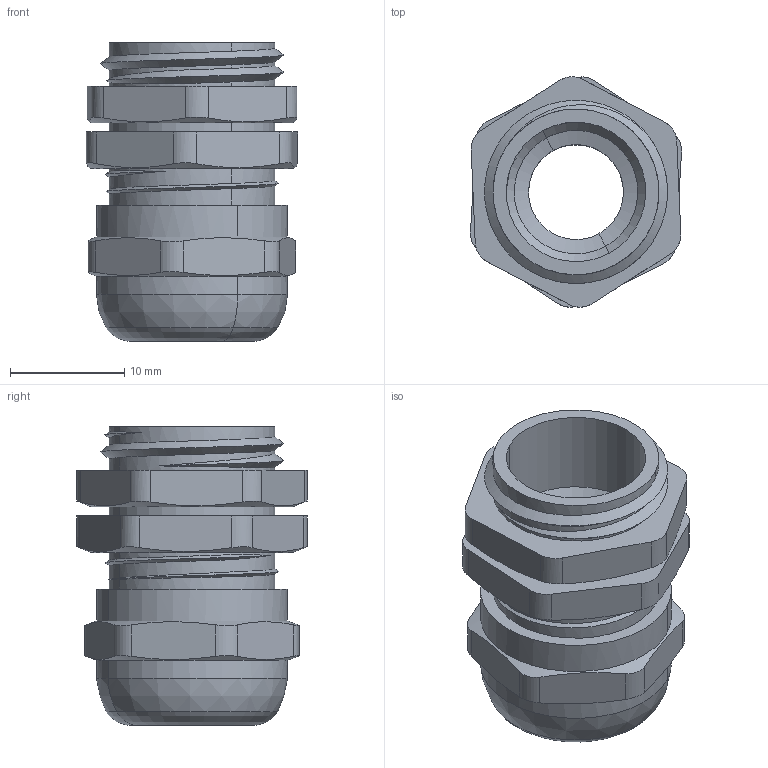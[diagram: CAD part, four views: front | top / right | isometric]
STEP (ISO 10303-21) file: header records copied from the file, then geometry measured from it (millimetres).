
FILE_DESCRIPTION(('CATIA V5 STEP Exchange'),'2;1');
FILE_NAME('C:\Users\Administrator\Desktop\m16-1.5tong.stp','2023-07-10T07:42:17+00:00',('none'),('none'),'CATIA Version 5 Release 21 GA (IN-10)','CATIA V5 STEP AP203','none');
FILE_SCHEMA(('CONFIG_CONTROL_DESIGN'));
Length unit declared in the file: millimetre
Products named in the file (1): Part6
Bounding box: 18.46 x 20.15 x 26.1 mm (x, y, z)
Volume: 3726.2 mm3; surface area: 2952.9 mm2
Topology: 1 solids, 1 shells, 88 faces, 228 edges, 152 vertices
Faces by surface type: cylinder 39, plane 26, cone 12, bspline 7, torus 2, revolution 2
Entity records: 4044 total; most frequent: CARTESIAN_POINT 2123, ORIENTED_EDGE 456, DIRECTION 260, EDGE_CURVE 228, VERTEX_POINT 148, AXIS2_PLACEMENT_3D 117, EDGE_LOOP 96, ADVANCED_FACE 88
